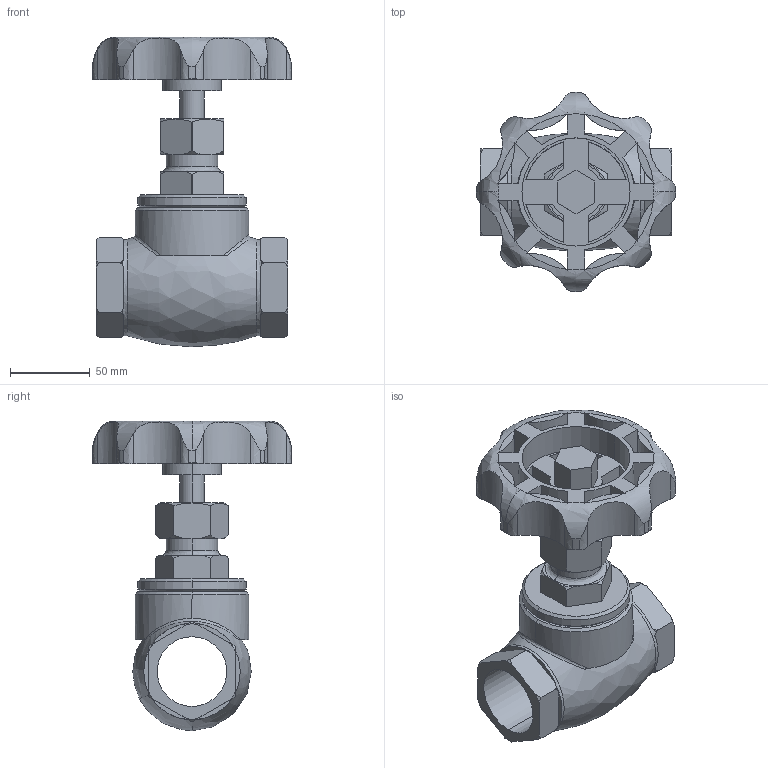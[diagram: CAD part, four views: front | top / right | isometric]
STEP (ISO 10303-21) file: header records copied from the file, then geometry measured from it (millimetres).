
FILE_DESCRIPTION( (''), '2;1');
FILE_NAME ('PC1027.9568.3D GLV-10 40A_15506.stp','2025-07-28T11:30:35',(''),(''),'spGate 19.8.4 (****-****-****-****)','','');
FILE_SCHEMA (('AUTOMOTIVE_DESIGN'));
Length unit declared in the file: millimetre
Bounding box: 125 x 124.99 x 194.14 mm (x, y, z)
Volume: 560309.5 mm3; surface area: 107721.2 mm2
Topology: 1 solids, 1 shells, 238 faces, 690 edges, 452 vertices
Faces by surface type: plane 92, bspline 86, cylinder 60
Entity records: 15780 total; most frequent: CARTESIAN_POINT 4961, ORIENTED_EDGE 1380, DIRECTION 968, COLOUR_RGB 929, PRESENTATION_STYLE_ASSIGNMENT 929, STYLED_ITEM 929, EDGE_CURVE 690, DRAUGHTING_PRE_DEFINED_CURVE_FONT 690
